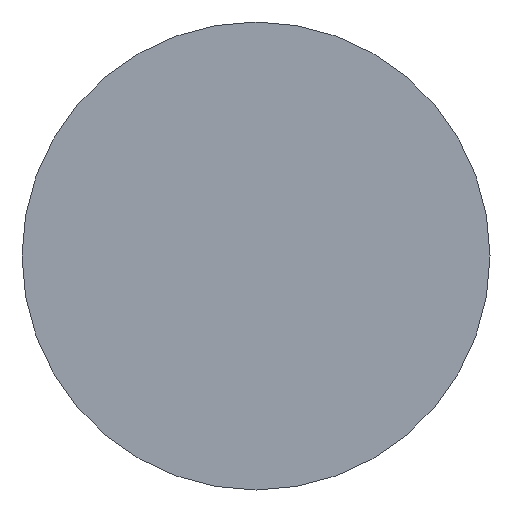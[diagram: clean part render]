
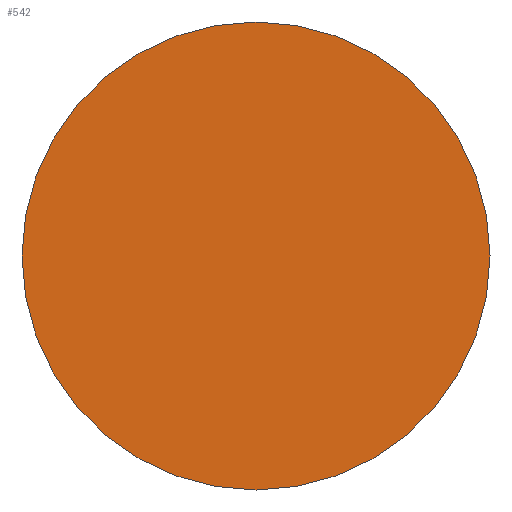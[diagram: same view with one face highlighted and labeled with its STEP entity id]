
A CAD part, front view. The second image highlights one B-rep face of the part: STEP entity #542.
In plain terms, the highlighted planar face has unit normal (0, -1, 0).
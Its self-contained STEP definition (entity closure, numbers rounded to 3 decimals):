
#88 = CIRCLE ( 'NONE', #667, 54.95 ) ;
#119 = EDGE_LOOP ( 'NONE', ( #123, #288 ) ) ;
#123 = ORIENTED_EDGE ( 'NONE', *, *, #411, .F. ) ;
#197 = DIRECTION ( 'NONE',  ( 0., 1., 0. ) ) ;
#288 = ORIENTED_EDGE ( 'NONE', *, *, #406, .F. ) ;
#347 = DIRECTION ( 'NONE',  ( 0., 0., 1. ) ) ;
#387 = VERTEX_POINT ( 'NONE', #523 ) ;
#406 = EDGE_CURVE ( 'NONE', #387, #603, #579, .T. ) ;
#410 = CARTESIAN_POINT ( 'NONE',  ( 0., 0., 0. ) ) ;
#411 = EDGE_CURVE ( 'NONE', #603, #387, #88, .T. ) ;
#481 = AXIS2_PLACEMENT_3D ( 'NONE', #410, #197, #817 ) ;
#523 = CARTESIAN_POINT ( 'NONE',  ( 0., 0., 54.95 ) ) ;
#542 = ADVANCED_FACE ( 'NONE', ( #695 ), #568, .F. ) ;
#562 = CARTESIAN_POINT ( 'NONE',  ( 0., 0., 0. ) ) ;
#568 = PLANE ( 'NONE',  #614 ) ;
#574 = DIRECTION ( 'NONE',  ( 0., 1., 0. ) ) ;
#579 = CIRCLE ( 'NONE', #481, 54.95 ) ;
#603 = VERTEX_POINT ( 'NONE', #765 ) ;
#614 = AXIS2_PLACEMENT_3D ( 'NONE', #562, #574, #700 ) ;
#620 = CARTESIAN_POINT ( 'NONE',  ( 0., 0., 0. ) ) ;
#667 = AXIS2_PLACEMENT_3D ( 'NONE', #620, #741, #347 ) ;
#695 = FACE_OUTER_BOUND ( 'NONE', #119, .T. ) ;
#700 = DIRECTION ( 'NONE',  ( 0., 0., 1. ) ) ;
#741 = DIRECTION ( 'NONE',  ( 0., 1., 0. ) ) ;
#765 = CARTESIAN_POINT ( 'NONE',  ( 0., 0., -54.95 ) ) ;
#817 = DIRECTION ( 'NONE',  ( 0., 0., 1. ) ) ;
